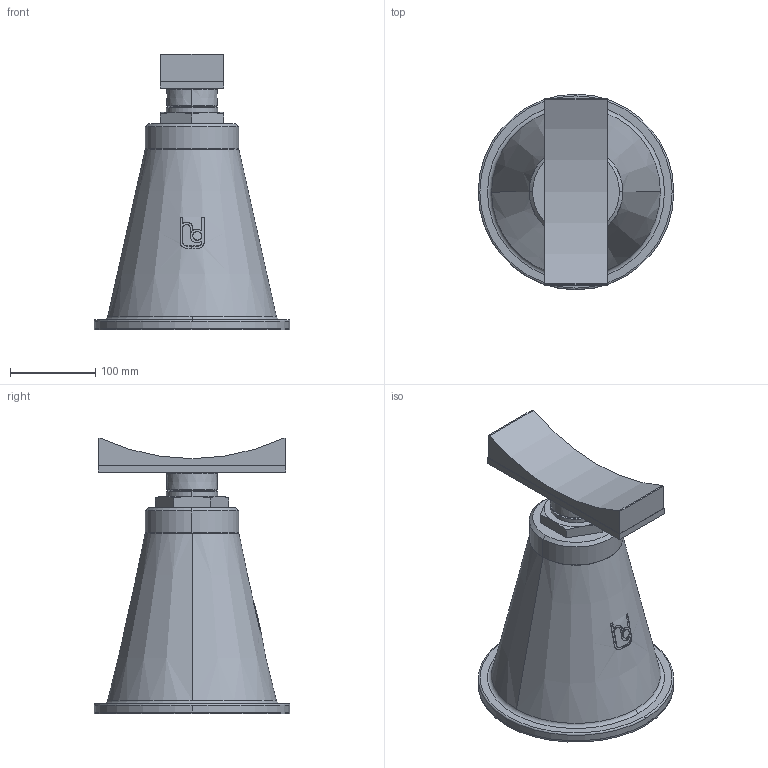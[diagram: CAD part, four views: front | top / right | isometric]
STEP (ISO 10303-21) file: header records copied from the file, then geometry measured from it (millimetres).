
FILE_DESCRIPTION(('STEP AP214'),'1');
FILE_NAME('RSRFA_DN500.stp','2018-06-25T10:00:02',(' '),(' '),'Spatial InterOp 3D',' ',' ');
FILE_SCHEMA(('automotive_design'));
Length unit declared in the file: millimetre
Products named in the file (6): 1; 2; 3; 4; 5; 6
Bounding box: 230 x 230 x 324 mm (x, y, z)
Volume: 5862629.5 mm3; surface area: 424819.5 mm2
Topology: 6 solids, 7 shells, 118 faces, 280 edges, 180 vertices
Faces by surface type: plane 51, cylinder 34, cone 25, torus 8
Entity records: 4854 total; most frequent: CARTESIAN_POINT 1042, DIRECTION 592, ORIENTED_EDGE 560, EDGE_CURVE 280, AXIS2_PLACEMENT_3D 230, VERTEX_POINT 180, LINE 132, VECTOR 132
